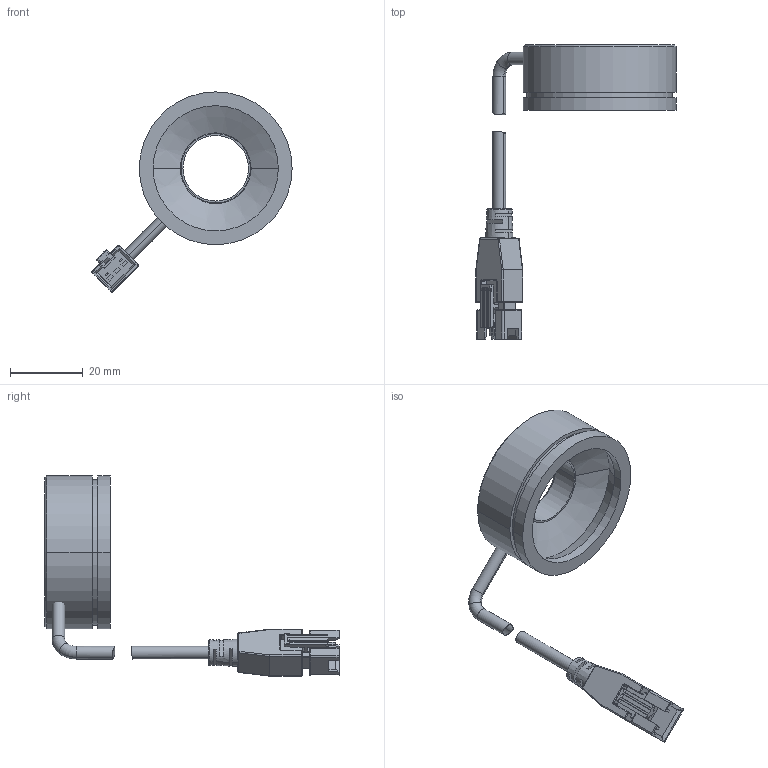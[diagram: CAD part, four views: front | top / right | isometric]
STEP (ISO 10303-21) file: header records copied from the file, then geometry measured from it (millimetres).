
FILE_DESCRIPTION((''),'2;1');
FILE_NAME('MV-LRDS-42-65_ASM','2019-09-19T',('rs-zhongwm'),(''),'PRO/ENGINEER BY PARAMETRIC TECHNOLOGY CORPORATION, 2010100','PRO/ENGINEER BY PARAMETRIC TECHNOLOGY CORPORATION, 2010100','');
FILE_SCHEMA(('CONFIG_CONTROL_DESIGN'));
Length unit declared in the file: millimetre
Products named in the file (5): PRT0001_1; LINE_TOU_1; BODY_12_1; XIANLAN-_ASM_1_ASM; MV-LRDS-42-65_ASM
Assembly tree (4 placements, depth 3):
  MV-LRDS-42-65_ASM
    PRT0001_1
    XIANLAN-_ASM_1_ASM
      LINE_TOU_1
      BODY_12_1
Bounding box: 55.03 x 80.8 x 55.03 mm (x, y, z)
Volume: 16339.8 mm3; surface area: 9128.5 mm2
Topology: 3 solids, 7 shells, 277 faces, 700 edges, 435 vertices
Faces by surface type: plane 138, cylinder 93, cone 18, torus 12, bspline 8, sphere 8
Entity records: 8601 total; most frequent: CARTESIAN_POINT 1826, DIRECTION 1432, ORIENTED_EDGE 1352, EDGE_CURVE 684, AXIS2_PLACEMENT_3D 512, VERTEX_POINT 435, VECTOR 408, LINE 408
